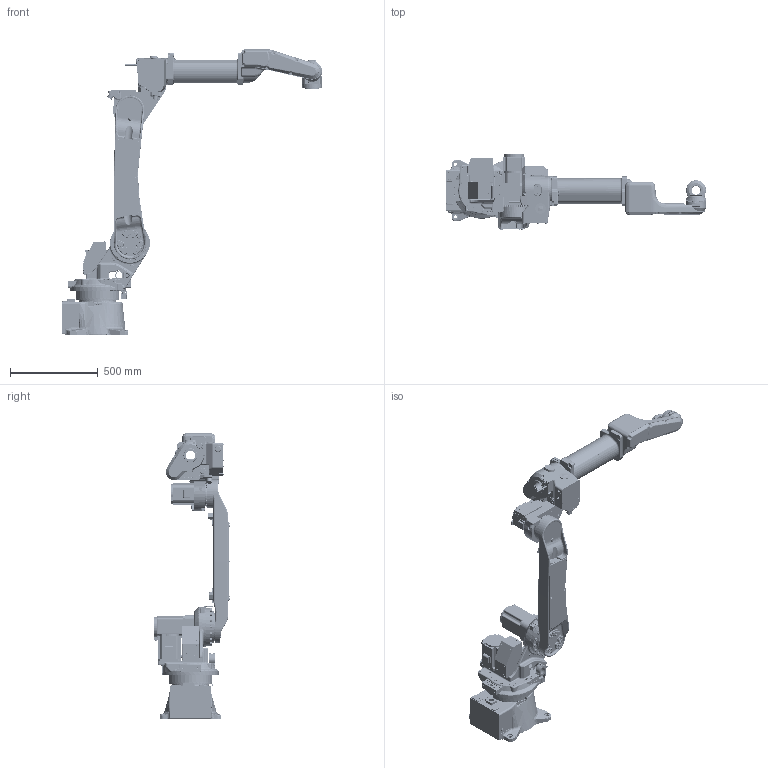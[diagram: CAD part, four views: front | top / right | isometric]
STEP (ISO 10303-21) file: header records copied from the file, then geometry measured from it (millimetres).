
FILE_DESCRIPTION(/* description */ (''),/* implementation_level */ '2;1');
FILE_NAME(/* name */ 'L:\メカ技\210 機構開発G\005_FDシリーズ\中型コストダウン\061_FD-ST\PDM登録用\NB6L\NB6L(S-2).stp',/* time_stamp */ '2020-12-10T10:02:03+09:00',/* author */ ('KOYAMA'),/* organization */ (''),/* preprocessor_version */ 'ST-DEVELOPER v18.1',/* originating_system */ 'Autodesk Inventor 2020',/* authorisation */ '');
FILE_SCHEMA (('AUTOMOTIVE_DESIGN { 1 0 10303 214 3 1 1 }'));
Products named in the file (20): NV25; daihena2nv25_base; daihena2nv25_base_1; daihena2nv25_link1; daihena2nv25_link1_1; daihena2nv25_link2; daihena2nv25_link2_1; daihena2nv25_motor2; daihena2nv25_motor2_1; daihena2nv25_motor1; daihena2nb6l_link3-2; daihena2nb6l_link3-2_1; 07.Link4; 07; 07_1; FD-B6_Link5; FD-B6_Link5_1; FD-B6_Link6; FD-B6_Link6_1; daihena2nv25_motor3
Assembly tree (19 placements, depth 3):
  NV25
    daihena2nv25_base
      daihena2nv25_base_1
    daihena2nv25_link1
      daihena2nv25_link1_1
    daihena2nv25_link2
      daihena2nv25_link2_1
    daihena2nv25_motor2
      daihena2nv25_motor2_1
    daihena2nv25_motor1
    daihena2nb6l_link3-2
      daihena2nb6l_link3-2_1
    07.Link4
      07
      07_1
    FD-B6_Link5
      FD-B6_Link5_1
    FD-B6_Link6
      FD-B6_Link6_1
    daihena2nv25_motor3
Bounding box: 1488 x 435.8 x 1632 mm (x, y, z)
Volume: 72812484.7 mm3; surface area: 3436242.5 mm2
Topology: 11 solids, 16 shells, 6498 faces, 16169 edges, 10040 vertices
Faces by surface type: plane 3050, cylinder 1632, bspline 913, torus 455, cone 353, sphere 95
Full cylindrical faces by diameter (mm): 1.2 x2, 3 x8, 3.242 x6, 3.5 x5, 4 x6, 4.1 x4, 4.134 x16, 4.3 x4, 4.917 x2, 5 x15, 5.5 x2, 5.9 x10, 6 x6, 6.4 x11, 6.5 x5, 6.647 x14, 6.9 x10, 7 x16, 8 x5, 8.376 x17, 8.5 x13, 9 x11, 9.2 x2, 9.4 x10, 9.9 x2, 10 x52, 10.106 x4, 10.5 x16, 11 x3, 11.8 x4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
Entity records: 244003 total; most frequent: CARTESIAN_POINT 86140, ORIENTED_EDGE 32008, DIRECTION 31147, EDGE_CURVE 16004, AXIS2_PLACEMENT_3D 11738, VERTEX_POINT 10040, LINE 7671, VECTOR 7671
